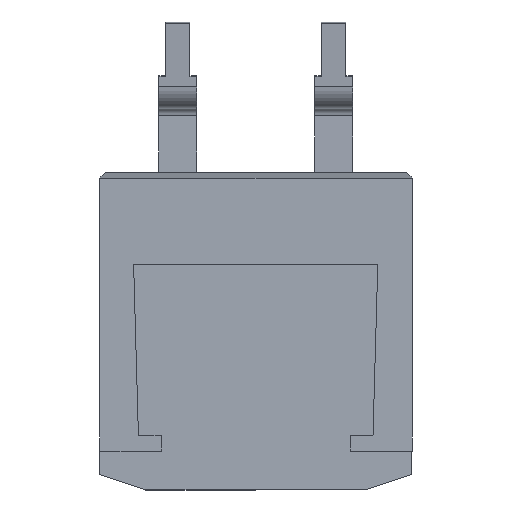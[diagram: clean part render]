
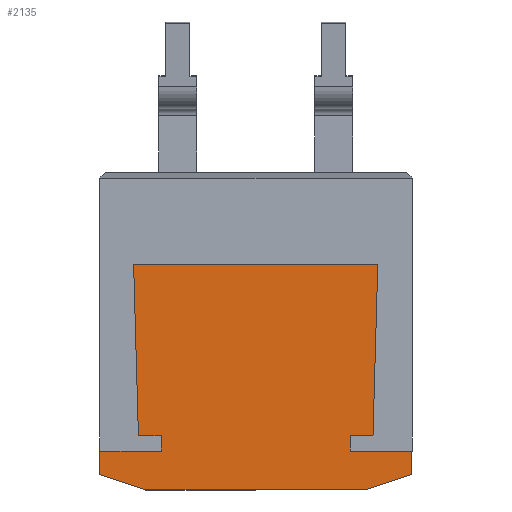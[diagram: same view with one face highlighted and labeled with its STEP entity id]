
A CAD part, front view. The second image highlights one B-rep face of the part: STEP entity #2135.
In plain terms, the highlighted planar face has unit normal (0, -1, 0).
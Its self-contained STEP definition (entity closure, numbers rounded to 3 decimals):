
#24 = DIRECTION ( 'NONE',  ( 0., 0., -1. ) ) ;
#81 = VECTOR ( 'NONE', #2671, 1000. ) ;
#116 = CARTESIAN_POINT ( 'NONE',  ( -3.08, 0., -2.408 ) ) ;
#181 = VERTEX_POINT ( 'NONE', #116 ) ;
#215 = DIRECTION ( 'NONE',  ( 0., 0., 1. ) ) ;
#224 = EDGE_CURVE ( 'NONE', #3949, #1109, #1461, .T. ) ;
#234 = CARTESIAN_POINT ( 'NONE',  ( -3.98, 0., 3.678 ) ) ;
#309 = CARTESIAN_POINT ( 'NONE',  ( -3.08, 0., -1.908 ) ) ;
#390 = VERTEX_POINT ( 'NONE', #1503 ) ;
#468 = LINE ( 'NONE', #2473, #2116 ) ;
#529 = ORIENTED_EDGE ( 'NONE', *, *, #3428, .F. ) ;
#614 = ORIENTED_EDGE ( 'NONE', *, *, #2570, .T. ) ;
#640 = VERTEX_POINT ( 'NONE', #3008 ) ;
#645 = CARTESIAN_POINT ( 'NONE',  ( 3.874, 0., -0.108 ) ) ;
#678 = EDGE_LOOP ( 'NONE', ( #4183, #1151, #2474, #614, #1008, #2714, #529, #727, #2233, #2751, #2238, #2181, #1038, #1478 ) ) ;
#711 = LINE ( 'NONE', #2396, #1736 ) ;
#720 = CARTESIAN_POINT ( 'NONE',  ( 0., 0., 0. ) ) ;
#724 = CARTESIAN_POINT ( 'NONE',  ( 5.08, 0., 3.678 ) ) ;
#727 = ORIENTED_EDGE ( 'NONE', *, *, #1046, .F. ) ;
#734 = VECTOR ( 'NONE', #2514, 1000. ) ;
#815 = VERTEX_POINT ( 'NONE', #1308 ) ;
#822 = EDGE_CURVE ( 'NONE', #390, #4208, #3917, .T. ) ;
#838 = EDGE_CURVE ( 'NONE', #934, #640, #1680, .T. ) ;
#885 = LINE ( 'NONE', #2207, #3782 ) ;
#934 = VERTEX_POINT ( 'NONE', #1790 ) ;
#955 = DIRECTION ( 'NONE',  ( -0.028, 0., 1. ) ) ;
#975 = DIRECTION ( 'NONE',  ( 0., 0., 1. ) ) ;
#1008 = ORIENTED_EDGE ( 'NONE', *, *, #1610, .F. ) ;
#1038 = ORIENTED_EDGE ( 'NONE', *, *, #2105, .T. ) ;
#1044 = LINE ( 'NONE', #1395, #3187 ) ;
#1046 = EDGE_CURVE ( 'NONE', #181, #2024, #885, .T. ) ;
#1109 = VERTEX_POINT ( 'NONE', #2611 ) ;
#1141 = DIRECTION ( 'NONE',  ( 0., 0., -1. ) ) ;
#1151 = ORIENTED_EDGE ( 'NONE', *, *, #224, .F. ) ;
#1198 = VECTOR ( 'NONE', #2530, 1000. ) ;
#1208 = CARTESIAN_POINT ( 'NONE',  ( -5.08, 0., -3.678 ) ) ;
#1308 = CARTESIAN_POINT ( 'NONE',  ( 3.824, 0., -1.908 ) ) ;
#1341 = EDGE_CURVE ( 'NONE', #2808, #934, #1511, .T. ) ;
#1395 = CARTESIAN_POINT ( 'NONE',  ( 0., 0., -2.407 ) ) ;
#1446 = VERTEX_POINT ( 'NONE', #2600 ) ;
#1461 = LINE ( 'NONE', #2384, #3784 ) ;
#1478 = ORIENTED_EDGE ( 'NONE', *, *, #3804, .F. ) ;
#1503 = CARTESIAN_POINT ( 'NONE',  ( -3.824, 0., -1.908 ) ) ;
#1511 = LINE ( 'NONE', #3436, #3370 ) ;
#1610 = EDGE_CURVE ( 'NONE', #4208, #3998, #3299, .T. ) ;
#1645 = CARTESIAN_POINT ( 'NONE',  ( -5.08, 0., 3.678 ) ) ;
#1670 = LINE ( 'NONE', #724, #81 ) ;
#1679 = VERTEX_POINT ( 'NONE', #4036 ) ;
#1680 = LINE ( 'NONE', #2937, #4065 ) ;
#1736 = VECTOR ( 'NONE', #2743, 1000. ) ;
#1790 = CARTESIAN_POINT ( 'NONE',  ( -5.08, 0., -3.177 ) ) ;
#1881 = EDGE_CURVE ( 'NONE', #815, #3949, #468, .T. ) ;
#1945 = EDGE_CURVE ( 'NONE', #1446, #2808, #2450, .T. ) ;
#1983 = CARTESIAN_POINT ( 'NONE',  ( 3.98, 0., 3.678 ) ) ;
#2024 = VERTEX_POINT ( 'NONE', #309 ) ;
#2105 = EDGE_CURVE ( 'NONE', #1446, #3930, #2856, .T. ) ;
#2116 = VECTOR ( 'NONE', #3759, 1000. ) ;
#2135 = ADVANCED_FACE ( 'NONE', ( #3667 ), #2991, .T. ) ;
#2181 = ORIENTED_EDGE ( 'NONE', *, *, #1945, .F. ) ;
#2207 = CARTESIAN_POINT ( 'NONE',  ( -3.08, 0., -2.408 ) ) ;
#2233 = ORIENTED_EDGE ( 'NONE', *, *, #3942, .F. ) ;
#2238 = ORIENTED_EDGE ( 'NONE', *, *, #1341, .F. ) ;
#2275 = CARTESIAN_POINT ( 'NONE',  ( -3.58, 0., -3.678 ) ) ;
#2311 = LINE ( 'NONE', #645, #2973 ) ;
#2384 = CARTESIAN_POINT ( 'NONE',  ( 3.08, 0., -2.408 ) ) ;
#2396 = CARTESIAN_POINT ( 'NONE',  ( -3.08, 0., -1.908 ) ) ;
#2450 = LINE ( 'NONE', #1208, #734 ) ;
#2473 = CARTESIAN_POINT ( 'NONE',  ( 3.08, 0., -1.908 ) ) ;
#2474 = ORIENTED_EDGE ( 'NONE', *, *, #1881, .F. ) ;
#2484 = CARTESIAN_POINT ( 'NONE',  ( 5.08, 0., -3.178 ) ) ;
#2494 = DIRECTION ( 'NONE',  ( -0.949, 0., 0.316 ) ) ;
#2514 = DIRECTION ( 'NONE',  ( -1., 0., 0. ) ) ;
#2530 = DIRECTION ( 'NONE',  ( 1., 0., 0. ) ) ;
#2557 = CARTESIAN_POINT ( 'NONE',  ( 3.58, 0., -3.678 ) ) ;
#2570 = EDGE_CURVE ( 'NONE', #815, #3998, #2311, .T. ) ;
#2600 = CARTESIAN_POINT ( 'NONE',  ( 3.58, 0., -3.678 ) ) ;
#2611 = CARTESIAN_POINT ( 'NONE',  ( 3.08, 0., -2.408 ) ) ;
#2624 = DIRECTION ( 'NONE',  ( 1., 0., 0. ) ) ;
#2665 = AXIS2_PLACEMENT_3D ( 'NONE', #720, #3062, #24 ) ;
#2671 = DIRECTION ( 'NONE',  ( 0., 0., -1. ) ) ;
#2714 = ORIENTED_EDGE ( 'NONE', *, *, #822, .F. ) ;
#2743 = DIRECTION ( 'NONE',  ( -1., 0., 0. ) ) ;
#2751 = ORIENTED_EDGE ( 'NONE', *, *, #838, .F. ) ;
#2808 = VERTEX_POINT ( 'NONE', #2275 ) ;
#2856 = LINE ( 'NONE', #2557, #4186 ) ;
#2937 = CARTESIAN_POINT ( 'NONE',  ( -5.08, 0., 3.678 ) ) ;
#2973 = VECTOR ( 'NONE', #4272, 1000. ) ;
#2991 = PLANE ( 'NONE',  #2665 ) ;
#3006 = CARTESIAN_POINT ( 'NONE',  ( -3.874, 0., -0.108 ) ) ;
#3008 = CARTESIAN_POINT ( 'NONE',  ( -5.08, 0., -2.408 ) ) ;
#3028 = EDGE_CURVE ( 'NONE', #1679, #1109, #1044, .T. ) ;
#3062 = DIRECTION ( 'NONE',  ( 0., -1., 0. ) ) ;
#3187 = VECTOR ( 'NONE', #4030, 1000. ) ;
#3223 = CARTESIAN_POINT ( 'NONE',  ( 0., 0., -2.408 ) ) ;
#3228 = VECTOR ( 'NONE', #2624, 1000. ) ;
#3299 = LINE ( 'NONE', #1645, #3228 ) ;
#3370 = VECTOR ( 'NONE', #2494, 1000. ) ;
#3428 = EDGE_CURVE ( 'NONE', #2024, #390, #711, .T. ) ;
#3436 = CARTESIAN_POINT ( 'NONE',  ( -1.461, 0., -4.384 ) ) ;
#3512 = CARTESIAN_POINT ( 'NONE',  ( 3.08, 0., -1.908 ) ) ;
#3515 = VECTOR ( 'NONE', #955, 1000. ) ;
#3667 = FACE_OUTER_BOUND ( 'NONE', #678, .T. ) ;
#3759 = DIRECTION ( 'NONE',  ( -1., 0., 0. ) ) ;
#3782 = VECTOR ( 'NONE', #215, 1000. ) ;
#3784 = VECTOR ( 'NONE', #1141, 1000. ) ;
#3804 = EDGE_CURVE ( 'NONE', #1679, #3930, #1670, .T. ) ;
#3917 = LINE ( 'NONE', #3006, #3515 ) ;
#3930 = VERTEX_POINT ( 'NONE', #2484 ) ;
#3942 = EDGE_CURVE ( 'NONE', #640, #181, #4177, .T. ) ;
#3949 = VERTEX_POINT ( 'NONE', #3512 ) ;
#3998 = VERTEX_POINT ( 'NONE', #1983 ) ;
#4030 = DIRECTION ( 'NONE',  ( -1., 0., 0. ) ) ;
#4036 = CARTESIAN_POINT ( 'NONE',  ( 5.08, 0., -2.408 ) ) ;
#4065 = VECTOR ( 'NONE', #975, 1000. ) ;
#4177 = LINE ( 'NONE', #3223, #1198 ) ;
#4183 = ORIENTED_EDGE ( 'NONE', *, *, #3028, .T. ) ;
#4186 = VECTOR ( 'NONE', #4261, 1000. ) ;
#4208 = VERTEX_POINT ( 'NONE', #234 ) ;
#4261 = DIRECTION ( 'NONE',  ( 0.949, 0., 0.316 ) ) ;
#4272 = DIRECTION ( 'NONE',  ( 0.028, 0., 1. ) ) ;
